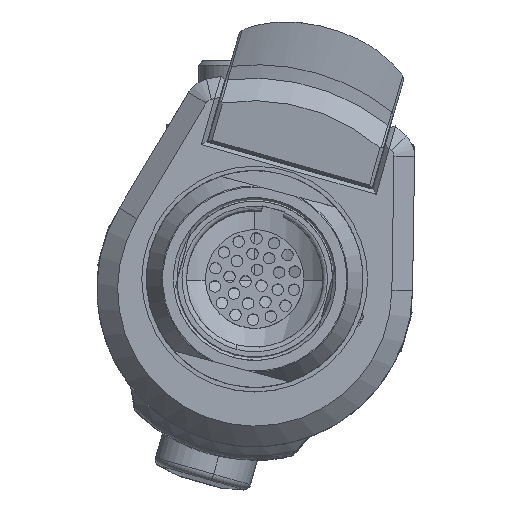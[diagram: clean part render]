
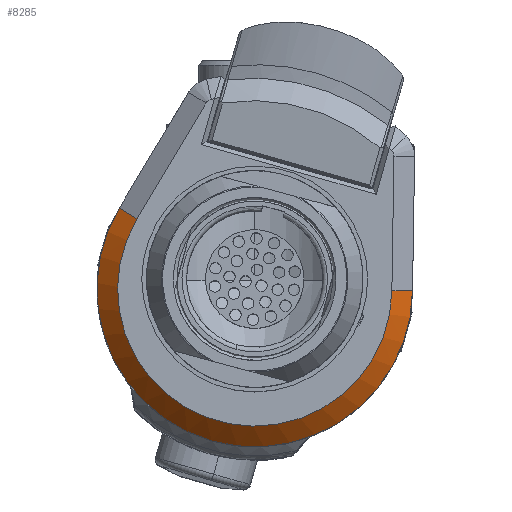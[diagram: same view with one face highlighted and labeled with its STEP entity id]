
A CAD part, top view. The second image highlights one B-rep face of the part: STEP entity #8285.
In plain terms, the highlighted conical face has half-angle 45 degrees and reference radius 17.462 mm.
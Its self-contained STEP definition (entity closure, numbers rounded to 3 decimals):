
#312 = ORIENTED_EDGE ( 'NONE', *, *, #3334, .F. ) ;
#1163 = FACE_OUTER_BOUND ( 'NONE', #15352, .T. ) ;
#1511 = AXIS2_PLACEMENT_3D ( 'NONE', #24737, #22788, #8375 ) ;
#3334 = EDGE_CURVE ( 'NONE', #21980, #20100, #26507, .T. ) ;
#4407 = EDGE_CURVE ( 'NONE', #29213, #21980, #28985, .T. ) ;
#4512 = VECTOR ( 'NONE', #11720, 1000. ) ;
#6641 = CARTESIAN_POINT ( 'NONE',  ( -14.986, 7.863, 94.859 ) ) ;
#6740 = DIRECTION ( 'NONE',  ( 0.274, 0.962, 0. ) ) ;
#6805 = ORIENTED_EDGE ( 'NONE', *, *, #10285, .F. ) ;
#7352 = EDGE_CURVE ( 'NONE', #12383, #29213, #21737, .T. ) ;
#7727 = ORIENTED_EDGE ( 'NONE', *, *, #4407, .F. ) ;
#8269 = CIRCLE ( 'NONE', #11829, 15.176 ) ;
#8285 = ADVANCED_FACE ( 'NONE', ( #1163 ), #28468, .T. ) ;
#8375 = DIRECTION ( 'NONE',  ( 0.274, 0.962, 0. ) ) ;
#8561 = DIRECTION ( 'NONE',  ( 0.274, 0.962, 0. ) ) ;
#10285 = EDGE_CURVE ( 'NONE', #20100, #24027, #8269, .T. ) ;
#10389 = B_SPLINE_CURVE_WITH_KNOTS ( 'NONE', 3,
 ( #19091, #28801, #19396, #14482 ),
 .UNSPECIFIED., .F., .F.,
 ( 4, 4 ),
 ( 0., 0.003 ),
 .UNSPECIFIED. ) ;
#11720 = DIRECTION ( 'NONE',  ( 0.607, -0.363, 0.707 ) ) ;
#11829 = AXIS2_PLACEMENT_3D ( 'NONE', #30249, #26128, #6740 ) ;
#12383 = VERTEX_POINT ( 'NONE', #21672 ) ;
#12994 = ORIENTED_EDGE ( 'NONE', *, *, #16257, .T. ) ;
#14482 = CARTESIAN_POINT ( 'NONE',  ( 15.176, -1.271, 97.145 ) ) ;
#15352 = EDGE_LOOP ( 'NONE', ( #12994, #6805, #312, #7727, #17187 ) ) ;
#15509 = CARTESIAN_POINT ( 'NONE',  ( 15.176, -1.271, 97.145 ) ) ;
#15533 = DIRECTION ( 'NONE',  ( 0., 0., -1. ) ) ;
#16257 = EDGE_CURVE ( 'NONE', #12383, #24027, #10389, .T. ) ;
#16693 = AXIS2_PLACEMENT_3D ( 'NONE', #24958, #30527, #25921 ) ;
#17187 = ORIENTED_EDGE ( 'NONE', *, *, #7352, .F. ) ;
#19048 = CARTESIAN_POINT ( 'NONE',  ( -4.78, -17.897, 94.859 ) ) ;
#19091 = CARTESIAN_POINT ( 'NONE',  ( 17.461, -1.302, 94.859 ) ) ;
#19396 = CARTESIAN_POINT ( 'NONE',  ( 15.937, -1.282, 96.383 ) ) ;
#20100 = VERTEX_POINT ( 'NONE', #27050 ) ;
#21672 = CARTESIAN_POINT ( 'NONE',  ( 17.461, -1.302, 94.859 ) ) ;
#21737 = CIRCLE ( 'NONE', #16693, 17.462 ) ;
#21755 = CARTESIAN_POINT ( 'NONE',  ( -14.986, 7.863, 94.859 ) ) ;
#21980 = VERTEX_POINT ( 'NONE', #21755 ) ;
#22788 = DIRECTION ( 'NONE',  ( 0., 0., -1. ) ) ;
#24027 = VERTEX_POINT ( 'NONE', #15509 ) ;
#24737 = CARTESIAN_POINT ( 'NONE',  ( 0., -1.101, 94.859 ) ) ;
#24958 = CARTESIAN_POINT ( 'NONE',  ( 0., -1.101, 94.859 ) ) ;
#25393 = CARTESIAN_POINT ( 'NONE',  ( 0., -1.101, 94.859 ) ) ;
#25921 = DIRECTION ( 'NONE',  ( 0.274, 0.962, 0. ) ) ;
#26128 = DIRECTION ( 'NONE',  ( 0., 0., 1. ) ) ;
#26507 = LINE ( 'NONE', #6641, #4512 ) ;
#26940 = AXIS2_PLACEMENT_3D ( 'NONE', #25393, #15533, #8561 ) ;
#27050 = CARTESIAN_POINT ( 'NONE',  ( -13.025, 6.689, 97.145 ) ) ;
#28468 = CONICAL_SURFACE ( 'NONE', #26940, 17.462, 0.785 ) ;
#28801 = CARTESIAN_POINT ( 'NONE',  ( 16.699, -1.292, 95.621 ) ) ;
#28985 = CIRCLE ( 'NONE', #1511, 17.462 ) ;
#29213 = VERTEX_POINT ( 'NONE', #19048 ) ;
#30249 = CARTESIAN_POINT ( 'NONE',  ( 0., -1.101, 97.145 ) ) ;
#30527 = DIRECTION ( 'NONE',  ( 0., 0., -1. ) ) ;
